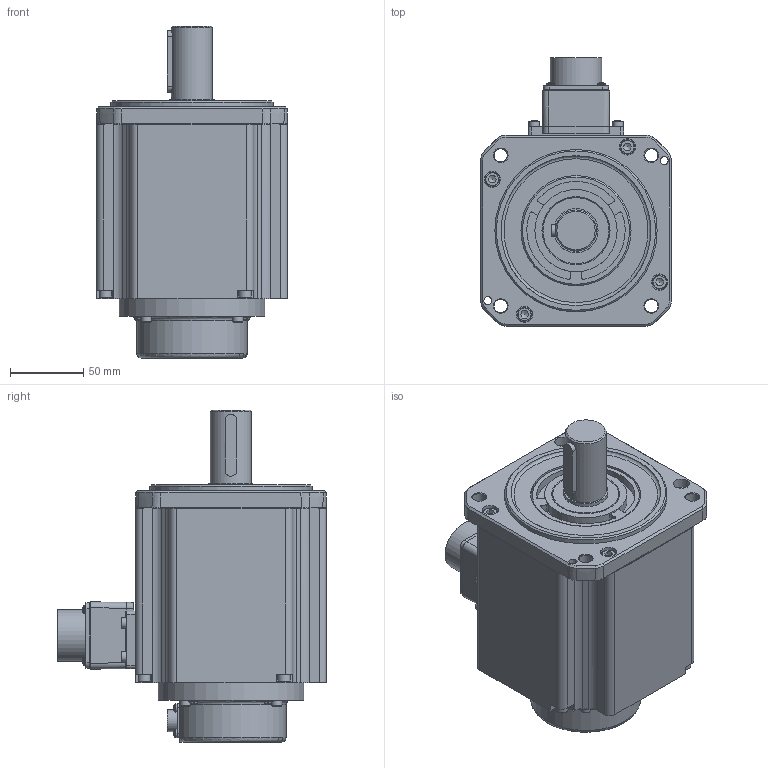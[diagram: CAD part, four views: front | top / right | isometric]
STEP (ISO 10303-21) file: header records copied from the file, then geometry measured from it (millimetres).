
FILE_DESCRIPTION((''),'2;1');
FILE_NAME('U:\WK\W21\1790\3D(R2AA13200LXH00M)\R2AA13200LXH00M.stp','2010-08-05T10:26:40',('HOYANO-CHIEKO'),(''),'Autodesk Inventor 2010','Autodesk Inventor 2010','');
FILE_SCHEMA(('AUTOMOTIVE_DESIGN { 1 0 10303 214 1 1 1 1 }'));
Length unit declared in the file: inch
Products named in the file (1): Part1
Bounding box: 130 x 183 x 226 mm (x, y, z)
Volume: 2253121.6 mm3; surface area: 151593.8 mm2
Topology: 1 solids, 41 shells, 935 faces, 2298 edges, 1503 vertices
Faces by surface type: plane 451, cylinder 264, cone 107, bspline 56, torus 49, sphere 8
Full cylindrical faces by diameter (mm): 2 x4, 2.5 x4, 3 x12, 3.1 x4, 4 x9, 4.5 x7, 5 x4, 5.5 x6, 5.6 x8, 6 x4, 6.6 x4, 7 x12, 8 x2, 8.5 x4, 9 x4, 10 x4, 11 x4, 13.5 x1, 14.8 x1, 28 x1, 30 x1, 33 x1, 35 x1, 36.5 x1, 40.9 x1, 45 x1, 56 x1, 75 x2, 99 x1, 110.5 x1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
Entity records: 29931 total; most frequent: CARTESIAN_POINT 9535, ORIENTED_EDGE 4110, DIRECTION 4027, EDGE_CURVE 2055, AXIS2_PLACEMENT_3D 1607, VERTEX_POINT 1436, EDGE_LOOP 1219, FACE_OUTER_BOUND 935
